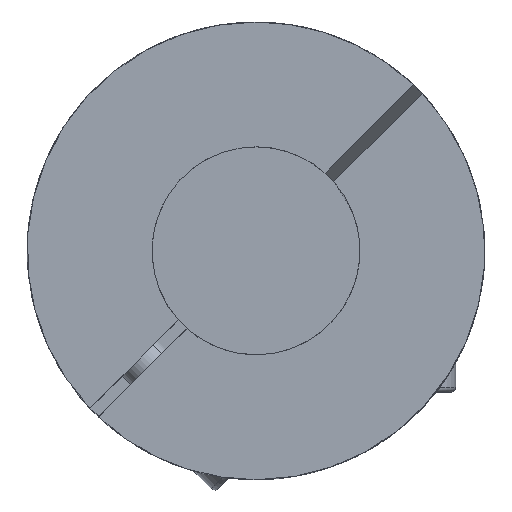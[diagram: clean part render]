
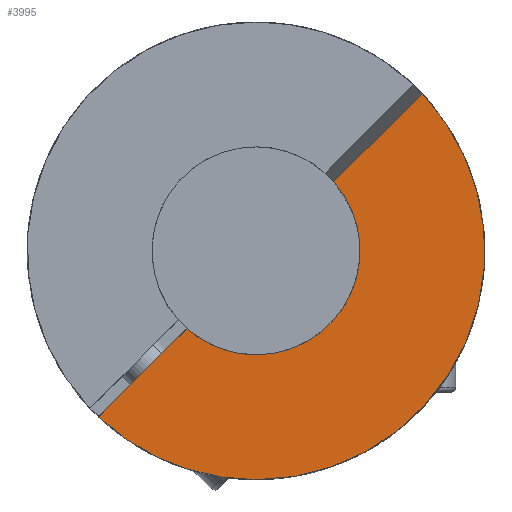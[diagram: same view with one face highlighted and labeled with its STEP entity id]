
A CAD part, front view. The second image highlights one B-rep face of the part: STEP entity #3995.
In plain terms, the highlighted planar face has unit normal (0, -1, 0).
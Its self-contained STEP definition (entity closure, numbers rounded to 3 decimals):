
#365 = DIRECTION ( 'NONE',  ( 0.707, 0., 0.707 ) ) ;
#567 = VERTEX_POINT ( 'NONE', #10626 ) ;
#950 = DIRECTION ( 'NONE',  ( 0., 0., 1. ) ) ;
#984 = CIRCLE ( 'NONE', #6132, 27.5 ) ;
#1237 = ORIENTED_EDGE ( 'NONE', *, *, #10976, .F. ) ;
#1418 = AXIS2_PLACEMENT_3D ( 'NONE', #3529, #6356, #5577 ) ;
#1472 = LINE ( 'NONE', #10540, #8078 ) ;
#1747 = CARTESIAN_POINT ( 'NONE',  ( -8.293, 0., -9.353 ) ) ;
#2506 = CARTESIAN_POINT ( 'NONE',  ( -18.915, 0., -19.976 ) ) ;
#2540 = CARTESIAN_POINT ( 'NONE',  ( 0., 0., 0. ) ) ;
#2586 = DIRECTION ( 'NONE',  ( 0., 0., -1. ) ) ;
#2613 = LINE ( 'NONE', #2506, #4467 ) ;
#2643 = CARTESIAN_POINT ( 'NONE',  ( 0., 0., 0. ) ) ;
#2931 = ORIENTED_EDGE ( 'NONE', *, *, #9238, .F. ) ;
#3142 = EDGE_CURVE ( 'NONE', #9370, #4393, #6496, .T. ) ;
#3242 = DIRECTION ( 'NONE',  ( 0., 1., 0. ) ) ;
#3455 = DIRECTION ( 'NONE',  ( 1., 0., 0. ) ) ;
#3521 = CARTESIAN_POINT ( 'NONE',  ( 9.353, 0., 8.293 ) ) ;
#3529 = CARTESIAN_POINT ( 'NONE',  ( 0., 0., 0. ) ) ;
#3577 = FACE_OUTER_BOUND ( 'NONE', #9855, .T. ) ;
#3748 = CARTESIAN_POINT ( 'NONE',  ( -18.908, 0., -19.969 ) ) ;
#3936 = AXIS2_PLACEMENT_3D ( 'NONE', #9898, #10915, #3455 ) ;
#3995 = ADVANCED_FACE ( 'NONE', ( #3577 ), #6222, .F. ) ;
#4393 = VERTEX_POINT ( 'NONE', #3748 ) ;
#4467 = VECTOR ( 'NONE', #11785, 1000. ) ;
#4591 = DIRECTION ( 'NONE',  ( 0., 1., 0. ) ) ;
#4623 = VERTEX_POINT ( 'NONE', #1747 ) ;
#5287 = CARTESIAN_POINT ( 'NONE',  ( 0., 0., 0. ) ) ;
#5577 = DIRECTION ( 'NONE',  ( 0., 0., -1. ) ) ;
#5939 = ORIENTED_EDGE ( 'NONE', *, *, #11331, .F. ) ;
#6040 = CARTESIAN_POINT ( 'NONE',  ( 19.969, 0., 18.908 ) ) ;
#6132 = AXIS2_PLACEMENT_3D ( 'NONE', #5287, #3242, #9807 ) ;
#6222 = PLANE ( 'NONE',  #3936 ) ;
#6356 = DIRECTION ( 'NONE',  ( 0., -1., 0. ) ) ;
#6496 = CIRCLE ( 'NONE', #11685, 27.5 ) ;
#6892 = CARTESIAN_POINT ( 'NONE',  ( 0., 0., -27.5 ) ) ;
#7736 = ORIENTED_EDGE ( 'NONE', *, *, #3142, .F. ) ;
#8078 = VECTOR ( 'NONE', #365, 1000. ) ;
#8080 = DIRECTION ( 'NONE',  ( 0., -1., 0. ) ) ;
#8254 = CIRCLE ( 'NONE', #11517, 12.5 ) ;
#8627 = VERTEX_POINT ( 'NONE', #6040 ) ;
#8717 = VERTEX_POINT ( 'NONE', #3521 ) ;
#8863 = ORIENTED_EDGE ( 'NONE', *, *, #11004, .F. ) ;
#8885 = ORIENTED_EDGE ( 'NONE', *, *, #9266, .F. ) ;
#9238 = EDGE_CURVE ( 'NONE', #8717, #8627, #2613, .T. ) ;
#9266 = EDGE_CURVE ( 'NONE', #567, #8717, #10815, .T. ) ;
#9370 = VERTEX_POINT ( 'NONE', #6892 ) ;
#9807 = DIRECTION ( 'NONE',  ( 0., 0., 1. ) ) ;
#9855 = EDGE_LOOP ( 'NONE', ( #2931, #8885, #8863, #1237, #7736, #5939 ) ) ;
#9898 = CARTESIAN_POINT ( 'NONE',  ( 0., 0., 0. ) ) ;
#10540 = CARTESIAN_POINT ( 'NONE',  ( -18.915, 0., -19.976 ) ) ;
#10626 = CARTESIAN_POINT ( 'NONE',  ( 0., 0., -12.5 ) ) ;
#10815 = CIRCLE ( 'NONE', #1418, 12.5 ) ;
#10915 = DIRECTION ( 'NONE',  ( 0., 1., 0. ) ) ;
#10976 = EDGE_CURVE ( 'NONE', #4393, #4623, #1472, .T. ) ;
#11004 = EDGE_CURVE ( 'NONE', #4623, #567, #8254, .T. ) ;
#11331 = EDGE_CURVE ( 'NONE', #8627, #9370, #984, .T. ) ;
#11517 = AXIS2_PLACEMENT_3D ( 'NONE', #2643, #8080, #2586 ) ;
#11685 = AXIS2_PLACEMENT_3D ( 'NONE', #2540, #4591, #950 ) ;
#11785 = DIRECTION ( 'NONE',  ( 0.707, 0., 0.707 ) ) ;
